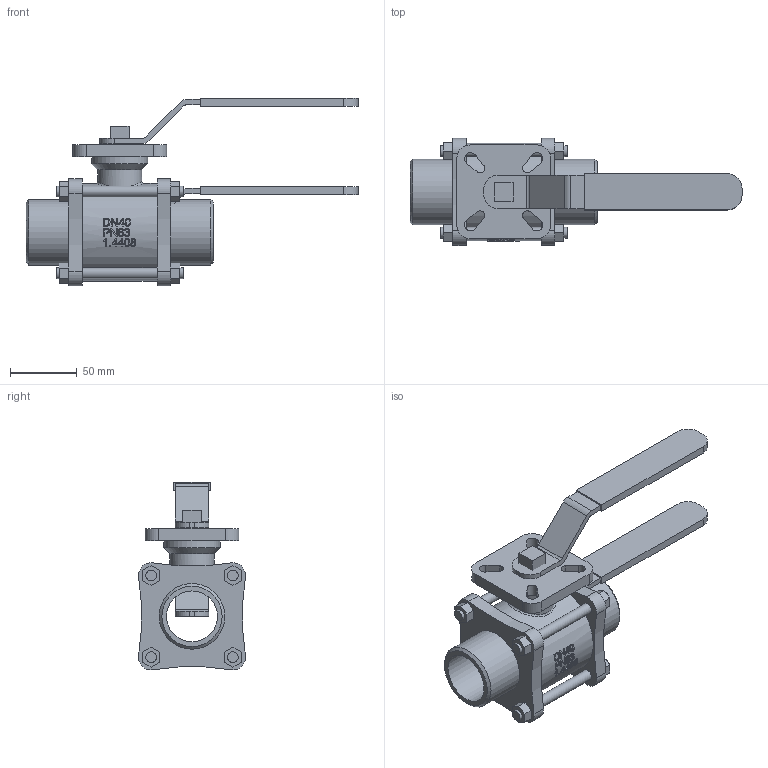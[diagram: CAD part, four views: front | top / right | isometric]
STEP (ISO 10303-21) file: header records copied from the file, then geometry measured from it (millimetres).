
FILE_DESCRIPTION( ( 'Unknown' ), '1' );
FILE_NAME( 'W:/ECCUA/ROOTSI BPS 3D vidinad/Kuulkraanid/Roostevaba kuulkraanid/Ball valve BPS 2421/Ball valve with hand lever BPS/STEP format/BPS 2421040 ball valve DN40.stp', 'Unknown', ( 'Unknown' ), ( 'Unknown' ), 'PSStep 10.1', 'Unknown', ' ' );
FILE_SCHEMA( ( 'AUTOMOTIVE_DESIGN { 1 0 10303 214 1 1 1 1 }' ) );
Length unit declared in the file: millimetre
Products named in the file (3): Assem1; Hand lever for ball valve DN40-50 BPS 2420-21; BPS 2421040 ball valve DN40
Bounding box: 248 x 80 x 140.3 mm (x, y, z)
Volume: 849676.7 mm3; surface area: 186443 mm2
Topology: 4 solids, 4 shells, 580 faces, 1430 edges, 954 vertices
Faces by surface type: plane 342, cylinder 158, bspline 74, cone 6
Full cylindrical faces by diameter (mm): 3 x2, 8 x24, 33 x2, 38 x2, 42 x2, 49 x4, 73 x2
Entity records: 15910 total; most frequent: CARTESIAN_POINT 7367, ORIENTED_EDGE 1358, DIRECTION 998, EDGE_CURVE 679, VERTEX_POINT 471, EDGE_LOOP 388, AXIS2_PLACEMENT_3D 367, FACE_OUTER_BOUND 317
